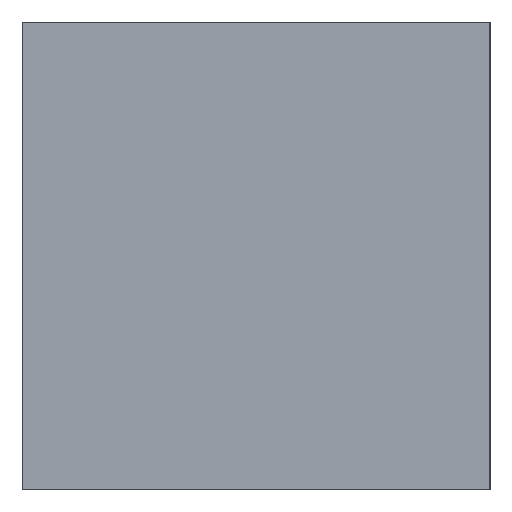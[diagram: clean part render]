
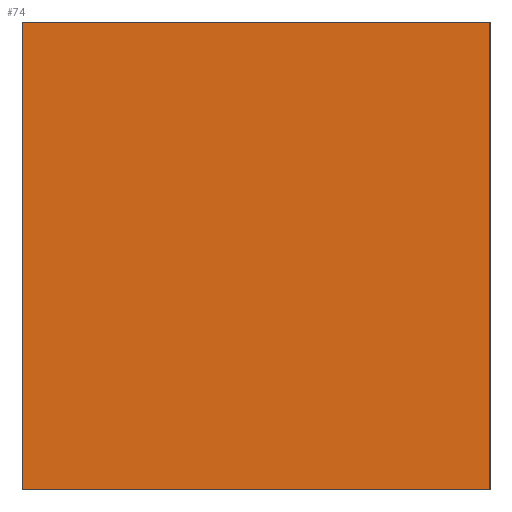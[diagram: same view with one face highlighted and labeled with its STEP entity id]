
A CAD part, left-side view. The second image highlights one B-rep face of the part: STEP entity #74.
In plain terms, the highlighted planar face has unit normal (-1, 0, 0).
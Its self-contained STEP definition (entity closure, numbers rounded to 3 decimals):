
#74 = ADVANCED_FACE( '', ( #155 ), #156, .F. );
#155 = FACE_OUTER_BOUND( '', #238, .T. );
#156 = PLANE( '', #239 );
#238 = EDGE_LOOP( '', ( #381, #382, #383, #384 ) );
#239 = AXIS2_PLACEMENT_3D( '', #385, #386, #387 );
#381 = ORIENTED_EDGE( '', *, *, #458, .T. );
#382 = ORIENTED_EDGE( '', *, *, #497, .F. );
#383 = ORIENTED_EDGE( '', *, *, #467, .F. );
#384 = ORIENTED_EDGE( '', *, *, #484, .T. );
#385 = CARTESIAN_POINT( '', ( 0., 5., 2.5 ) );
#386 = DIRECTION( '', ( 1., 0., 0. ) );
#387 = DIRECTION( '', ( 0., 0., -1. ) );
#458 = EDGE_CURVE( '', #535, #533, #536, .T. );
#467 = EDGE_CURVE( '', #549, #551, #552, .T. );
#484 = EDGE_CURVE( '', #549, #535, #578, .T. );
#497 = EDGE_CURVE( '', #551, #533, #594, .T. );
#533 = VERTEX_POINT( '', #635 );
#535 = VERTEX_POINT( '', #638 );
#536 = LINE( '', #639, #640 );
#549 = VERTEX_POINT( '', #659 );
#551 = VERTEX_POINT( '', #662 );
#552 = LINE( '', #663, #664 );
#578 = LINE( '', #701, #702 );
#594 = LINE( '', #721, #722 );
#635 = CARTESIAN_POINT( '', ( 0., 0., -2.5 ) );
#638 = CARTESIAN_POINT( '', ( 0., 5., -2.5 ) );
#639 = CARTESIAN_POINT( '', ( 0., 5., -2.5 ) );
#640 = VECTOR( '', #759, 1000. );
#659 = CARTESIAN_POINT( '', ( 0., 5., 2.5 ) );
#662 = CARTESIAN_POINT( '', ( 0., 0., 2.5 ) );
#663 = CARTESIAN_POINT( '', ( 0., 5., 2.5 ) );
#664 = VECTOR( '', #767, 1000. );
#701 = CARTESIAN_POINT( '', ( 0., 5., 2.5 ) );
#702 = VECTOR( '', #782, 1000. );
#721 = CARTESIAN_POINT( '', ( 0., 0., 2.5 ) );
#722 = VECTOR( '', #798, 1000. );
#759 = DIRECTION( '', ( 0., -1., 0. ) );
#767 = DIRECTION( '', ( 0., -1., 0. ) );
#782 = DIRECTION( '', ( 0., 0., -1. ) );
#798 = DIRECTION( '', ( 0., 0., -1. ) );
